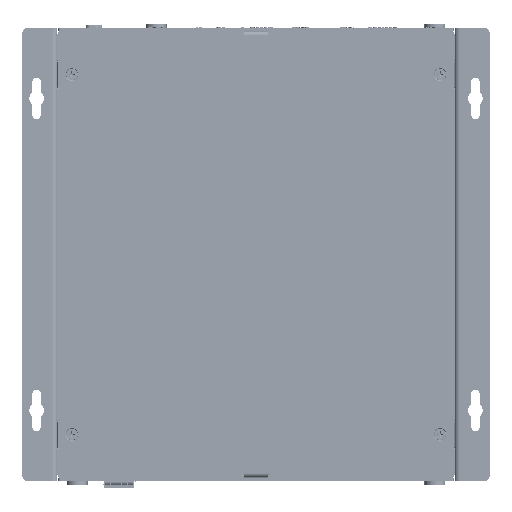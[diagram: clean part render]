
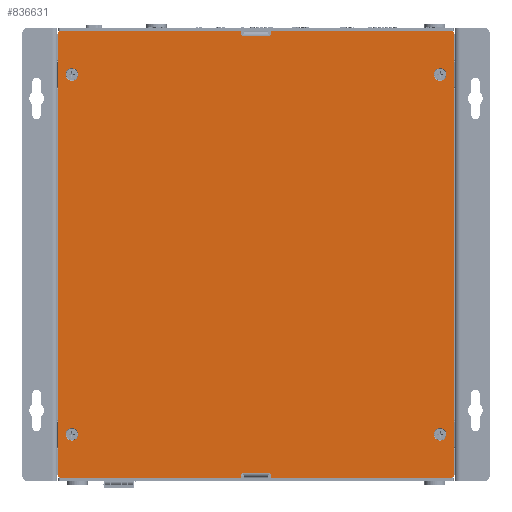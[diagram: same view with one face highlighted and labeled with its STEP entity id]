
A CAD part, front view. The second image highlights one B-rep face of the part: STEP entity #836631.
In plain terms, the highlighted planar face has unit normal (0, -1, 0) as drawn and (0, 1, 0) by its records, which use the part's own axes.
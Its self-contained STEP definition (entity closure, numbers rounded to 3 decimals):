
#835161=CARTESIAN_POINT('',(-88.5,1.5,-86.5));
#835162=DIRECTION('',(0.,1.,0.));
#835163=DIRECTION('',(1.,0.,0.));
#835164=AXIS2_PLACEMENT_3D('',#835161,#835162,#835163);
#835169=CARTESIAN_POINT('',(-88.5,1.5,-86.5));
#835170=DIRECTION('',(0.,1.,0.));
#835171=DIRECTION('',(-1.,0.,0.));
#835172=AXIS2_PLACEMENT_3D('',#835169,#835170,#835171);
#835177=CARTESIAN_POINT('',(88.5,1.5,-86.5));
#835178=DIRECTION('',(0.,1.,0.));
#835179=DIRECTION('',(1.,0.,0.));
#835180=AXIS2_PLACEMENT_3D('',#835177,#835178,#835179);
#835185=CARTESIAN_POINT('',(88.5,1.5,-86.5));
#835186=DIRECTION('',(0.,1.,0.));
#835187=DIRECTION('',(-1.,0.,0.));
#835188=AXIS2_PLACEMENT_3D('',#835185,#835186,#835187);
#835193=CARTESIAN_POINT('',(88.5,1.5,86.5));
#835194=DIRECTION('',(0.,1.,0.));
#835195=DIRECTION('',(1.,0.,0.));
#835196=AXIS2_PLACEMENT_3D('',#835193,#835194,#835195);
#835201=CARTESIAN_POINT('',(88.5,1.5,86.5));
#835202=DIRECTION('',(0.,1.,0.));
#835203=DIRECTION('',(-1.,0.,0.));
#835204=AXIS2_PLACEMENT_3D('',#835201,#835202,#835203);
#835209=CARTESIAN_POINT('',(-88.5,1.5,86.5));
#835210=DIRECTION('',(0.,1.,0.));
#835211=DIRECTION('',(1.,0.,0.));
#835212=AXIS2_PLACEMENT_3D('',#835209,#835210,#835211);
#835217=CARTESIAN_POINT('',(-88.5,1.5,86.5));
#835218=DIRECTION('',(0.,1.,0.));
#835219=DIRECTION('',(-1.,0.,0.));
#835220=AXIS2_PLACEMENT_3D('',#835217,#835218,#835219);
#835225=CARTESIAN_POINT('',(6.5,1.5,-105.75));
#835226=DIRECTION('',(0.,-1.,0.));
#835227=DIRECTION('',(1.,0.,0.));
#835228=AXIS2_PLACEMENT_3D('',#835225,#835226,#835227);
#835233=DIRECTION('',(0.,0.,1.));
#835234=VECTOR('',#835233,1.5);
#835235=CARTESIAN_POINT('',(7.,1.5,-107.25));
#835236=LINE('',#835235,#835234);
#835240=DIRECTION('',(-1.,0.,0.));
#835241=VECTOR('',#835240,87.25);
#835242=CARTESIAN_POINT('',(94.25,1.5,-107.25));
#835243=LINE('',#835242,#835241);
#835247=CARTESIAN_POINT('',(94.25,1.5,-106.25));
#835248=DIRECTION('',(0.,1.,0.));
#835249=DIRECTION('',(1.,0.,0.));
#835250=AXIS2_PLACEMENT_3D('',#835247,#835248,#835249);
#835255=DIRECTION('',(0.,0.,-1.));
#835256=VECTOR('',#835255,212.5);
#835257=CARTESIAN_POINT('',(95.25,1.5,106.25));
#835258=LINE('',#835257,#835256);
#835262=CARTESIAN_POINT('',(94.25,1.5,106.25));
#835263=DIRECTION('',(0.,1.,0.));
#835264=DIRECTION('',(0.,0.,1.));
#835265=AXIS2_PLACEMENT_3D('',#835262,#835263,#835264);
#835270=DIRECTION('',(1.,0.,0.));
#835271=VECTOR('',#835270,87.25);
#835272=CARTESIAN_POINT('',(7.,1.5,107.25));
#835273=LINE('',#835272,#835271);
#835277=DIRECTION('',(0.,0.,-1.));
#835278=VECTOR('',#835277,1.5);
#835279=CARTESIAN_POINT('',(7.,1.5,107.25));
#835280=LINE('',#835279,#835278);
#835284=CARTESIAN_POINT('',(6.5,1.5,105.75));
#835285=DIRECTION('',(0.,1.,0.));
#835286=DIRECTION('',(1.,0.,0.));
#835287=AXIS2_PLACEMENT_3D('',#835284,#835285,#835286);
#835292=CARTESIAN_POINT('',(-6.5,1.5,105.75));
#835293=DIRECTION('',(0.,-1.,0.));
#835294=DIRECTION('',(-1.,0.,0.));
#835295=AXIS2_PLACEMENT_3D('',#835292,#835293,#835294);
#835300=DIRECTION('',(0.,0.,-1.));
#835301=VECTOR('',#835300,1.5);
#835302=CARTESIAN_POINT('',(-7.,1.5,107.25));
#835303=LINE('',#835302,#835301);
#835307=DIRECTION('',(1.,0.,0.));
#835308=VECTOR('',#835307,87.25);
#835309=CARTESIAN_POINT('',(-94.25,1.5,107.25));
#835310=LINE('',#835309,#835308);
#835314=CARTESIAN_POINT('',(-94.25,1.5,106.25));
#835315=DIRECTION('',(0.,1.,0.));
#835316=DIRECTION('',(-1.,0.,0.));
#835317=AXIS2_PLACEMENT_3D('',#835314,#835315,#835316);
#835322=DIRECTION('',(0.,0.,1.));
#835323=VECTOR('',#835322,212.5);
#835324=CARTESIAN_POINT('',(-95.25,1.5,-106.25));
#835325=LINE('',#835324,#835323);
#835329=CARTESIAN_POINT('',(-94.25,1.5,-106.25));
#835330=DIRECTION('',(0.,1.,0.));
#835331=DIRECTION('',(0.,0.,-1.));
#835332=AXIS2_PLACEMENT_3D('',#835329,#835330,#835331);
#835337=DIRECTION('',(-1.,0.,0.));
#835338=VECTOR('',#835337,87.25);
#835339=CARTESIAN_POINT('',(-7.,1.5,-107.25));
#835340=LINE('',#835339,#835338);
#835344=DIRECTION('',(0.,0.,1.));
#835345=VECTOR('',#835344,1.5);
#835346=CARTESIAN_POINT('',(-7.,1.5,-107.25));
#835347=LINE('',#835346,#835345);
#835351=CARTESIAN_POINT('',(-6.5,1.5,-105.75));
#835352=DIRECTION('',(0.,1.,0.));
#835353=DIRECTION('',(-1.,0.,0.));
#835354=AXIS2_PLACEMENT_3D('',#835351,#835352,#835353);
#835536=DIRECTION('',(-1.,0.,0.));
#835537=VECTOR('',#835536,13.);
#835538=CARTESIAN_POINT('',(6.5,1.5,-105.25));
#835539=LINE('',#835538,#835537);
#835825=DIRECTION('',(1.,0.,0.));
#835826=VECTOR('',#835825,13.);
#835827=CARTESIAN_POINT('',(-6.5,1.5,105.25));
#835828=LINE('',#835827,#835826);
#836227=CARTESIAN_POINT('',(-85.5,1.5,-86.5));
#836228=CARTESIAN_POINT('',(-91.5,1.5,-86.5));
#836229=VERTEX_POINT('',#836227);
#836230=VERTEX_POINT('',#836228);
#836239=CARTESIAN_POINT('',(91.5,1.5,-86.5));
#836240=CARTESIAN_POINT('',(85.5,1.5,-86.5));
#836241=VERTEX_POINT('',#836239);
#836242=VERTEX_POINT('',#836240);
#836251=CARTESIAN_POINT('',(91.5,1.5,86.5));
#836252=CARTESIAN_POINT('',(85.5,1.5,86.5));
#836253=VERTEX_POINT('',#836251);
#836254=VERTEX_POINT('',#836252);
#836263=CARTESIAN_POINT('',(-85.5,1.5,86.5));
#836264=CARTESIAN_POINT('',(-91.5,1.5,86.5));
#836265=VERTEX_POINT('',#836263);
#836266=VERTEX_POINT('',#836264);
#836271=CARTESIAN_POINT('',(-94.25,1.5,-107.25));
#836272=VERTEX_POINT('',#836271);
#836273=CARTESIAN_POINT('',(-95.25,1.5,-106.25));
#836274=VERTEX_POINT('',#836273);
#836279=CARTESIAN_POINT('',(-95.25,1.5,106.25));
#836280=VERTEX_POINT('',#836279);
#836281=CARTESIAN_POINT('',(-94.25,1.5,107.25));
#836282=VERTEX_POINT('',#836281);
#836287=CARTESIAN_POINT('',(94.25,1.5,107.25));
#836288=VERTEX_POINT('',#836287);
#836289=CARTESIAN_POINT('',(95.25,1.5,106.25));
#836290=VERTEX_POINT('',#836289);
#836295=CARTESIAN_POINT('',(95.25,1.5,-106.25));
#836296=VERTEX_POINT('',#836295);
#836297=CARTESIAN_POINT('',(94.25,1.5,-107.25));
#836298=VERTEX_POINT('',#836297);
#836313=CARTESIAN_POINT('',(-7.,1.5,105.75));
#836314=CARTESIAN_POINT('',(-6.5,1.5,105.25));
#836315=VERTEX_POINT('',#836313);
#836316=VERTEX_POINT('',#836314);
#836317=CARTESIAN_POINT('',(-7.,1.5,107.25));
#836318=VERTEX_POINT('',#836317);
#836329=CARTESIAN_POINT('',(7.,1.5,105.75));
#836330=CARTESIAN_POINT('',(6.5,1.5,105.25));
#836331=VERTEX_POINT('',#836329);
#836332=VERTEX_POINT('',#836330);
#836333=CARTESIAN_POINT('',(7.,1.5,107.25));
#836334=VERTEX_POINT('',#836333);
#836353=CARTESIAN_POINT('',(7.,1.5,-105.75));
#836354=CARTESIAN_POINT('',(6.5,1.5,-105.25));
#836355=VERTEX_POINT('',#836353);
#836356=VERTEX_POINT('',#836354);
#836357=CARTESIAN_POINT('',(7.,1.5,-107.25));
#836358=VERTEX_POINT('',#836357);
#836369=CARTESIAN_POINT('',(-7.,1.5,-105.75));
#836370=CARTESIAN_POINT('',(-6.5,1.5,-105.25));
#836371=VERTEX_POINT('',#836369);
#836372=VERTEX_POINT('',#836370);
#836373=CARTESIAN_POINT('',(-7.,1.5,-107.25));
#836374=VERTEX_POINT('',#836373);
#836561=CARTESIAN_POINT('',(0.,1.5,0.));
#836562=DIRECTION('',(0.,1.,0.));
#836563=DIRECTION('',(1.,0.,0.));
#836564=AXIS2_PLACEMENT_3D('',#836561,#836562,#836563);
#836565=PLANE('',#836564);
#836567=ORIENTED_EDGE('',*,*,#836566,.F.);
#836569=ORIENTED_EDGE('',*,*,#836568,.F.);
#836571=ORIENTED_EDGE('',*,*,#836570,.F.);
#836573=ORIENTED_EDGE('',*,*,#836572,.F.);
#836575=ORIENTED_EDGE('',*,*,#836574,.F.);
#836577=ORIENTED_EDGE('',*,*,#836576,.F.);
#836579=ORIENTED_EDGE('',*,*,#836578,.F.);
#836581=ORIENTED_EDGE('',*,*,#836580,.F.);
#836583=ORIENTED_EDGE('',*,*,#836582,.T.);
#836585=ORIENTED_EDGE('',*,*,#836584,.T.);
#836587=ORIENTED_EDGE('',*,*,#836586,.F.);
#836589=ORIENTED_EDGE('',*,*,#836588,.F.);
#836591=ORIENTED_EDGE('',*,*,#836590,.F.);
#836593=ORIENTED_EDGE('',*,*,#836592,.F.);
#836595=ORIENTED_EDGE('',*,*,#836594,.F.);
#836597=ORIENTED_EDGE('',*,*,#836596,.F.);
#836599=ORIENTED_EDGE('',*,*,#836598,.F.);
#836601=ORIENTED_EDGE('',*,*,#836600,.F.);
#836603=ORIENTED_EDGE('',*,*,#836602,.T.);
#836605=ORIENTED_EDGE('',*,*,#836604,.T.);
#836606=EDGE_LOOP('',(#836567,#836569,#836571,#836573,#836575,#836577,#836579,
#836581,#836583,#836585,#836587,#836589,#836591,#836593,#836595,#836597,#836599,
#836601,#836603,#836605));
#836607=FACE_OUTER_BOUND('',#836606,.F.);
#836609=ORIENTED_EDGE('',*,*,#836608,.T.);
#836611=ORIENTED_EDGE('',*,*,#836610,.T.);
#836612=EDGE_LOOP('',(#836609,#836611));
#836613=FACE_BOUND('',#836612,.F.);
#836615=ORIENTED_EDGE('',*,*,#836614,.T.);
#836617=ORIENTED_EDGE('',*,*,#836616,.T.);
#836618=EDGE_LOOP('',(#836615,#836617));
#836619=FACE_BOUND('',#836618,.F.);
#836621=ORIENTED_EDGE('',*,*,#836620,.T.);
#836623=ORIENTED_EDGE('',*,*,#836622,.T.);
#836624=EDGE_LOOP('',(#836621,#836623));
#836625=FACE_BOUND('',#836624,.F.);
#836627=ORIENTED_EDGE('',*,*,#836626,.T.);
#836628=ORIENTED_EDGE('',*,*,#836544,.T.);
#836629=EDGE_LOOP('',(#836627,#836628));
#836630=FACE_BOUND('',#836629,.F.);
#835165=CIRCLE('',#835164,3.);
#835173=CIRCLE('',#835172,3.);
#835181=CIRCLE('',#835180,3.);
#835189=CIRCLE('',#835188,3.);
#835197=CIRCLE('',#835196,3.);
#835205=CIRCLE('',#835204,3.);
#835213=CIRCLE('',#835212,3.);
#835221=CIRCLE('',#835220,3.);
#835229=CIRCLE('',#835228,0.5);
#835251=CIRCLE('',#835250,1.);
#835266=CIRCLE('',#835265,1.);
#835288=CIRCLE('',#835287,0.5);
#835296=CIRCLE('',#835295,0.5);
#835318=CIRCLE('',#835317,1.);
#835333=CIRCLE('',#835332,1.);
#835355=CIRCLE('',#835354,0.5);
#836544=EDGE_CURVE('',#836230,#836229,#835173,.T.);
#836566=EDGE_CURVE('',#836356,#836372,#835539,.T.);
#836568=EDGE_CURVE('',#836355,#836356,#835229,.T.);
#836570=EDGE_CURVE('',#836358,#836355,#835236,.T.);
#836572=EDGE_CURVE('',#836298,#836358,#835243,.T.);
#836574=EDGE_CURVE('',#836296,#836298,#835251,.T.);
#836576=EDGE_CURVE('',#836290,#836296,#835258,.T.);
#836578=EDGE_CURVE('',#836288,#836290,#835266,.T.);
#836580=EDGE_CURVE('',#836334,#836288,#835273,.T.);
#836582=EDGE_CURVE('',#836334,#836331,#835280,.T.);
#836584=EDGE_CURVE('',#836331,#836332,#835288,.T.);
#836586=EDGE_CURVE('',#836316,#836332,#835828,.T.);
#836588=EDGE_CURVE('',#836315,#836316,#835296,.T.);
#836590=EDGE_CURVE('',#836318,#836315,#835303,.T.);
#836592=EDGE_CURVE('',#836282,#836318,#835310,.T.);
#836594=EDGE_CURVE('',#836280,#836282,#835318,.T.);
#836596=EDGE_CURVE('',#836274,#836280,#835325,.T.);
#836598=EDGE_CURVE('',#836272,#836274,#835333,.T.);
#836600=EDGE_CURVE('',#836374,#836272,#835340,.T.);
#836602=EDGE_CURVE('',#836374,#836371,#835347,.T.);
#836604=EDGE_CURVE('',#836371,#836372,#835355,.T.);
#836608=EDGE_CURVE('',#836241,#836242,#835181,.T.);
#836610=EDGE_CURVE('',#836242,#836241,#835189,.T.);
#836614=EDGE_CURVE('',#836253,#836254,#835197,.T.);
#836616=EDGE_CURVE('',#836254,#836253,#835205,.T.);
#836620=EDGE_CURVE('',#836265,#836266,#835213,.T.);
#836622=EDGE_CURVE('',#836266,#836265,#835221,.T.);
#836626=EDGE_CURVE('',#836229,#836230,#835165,.T.);
#836631=ADVANCED_FACE('',(#836607,#836613,#836619,#836625,#836630),#836565,.T.);
